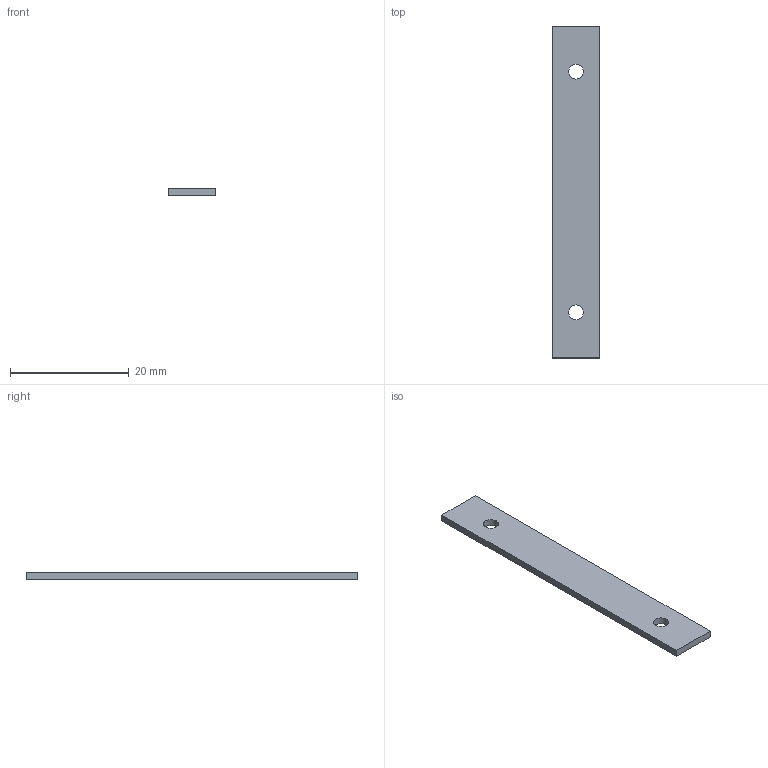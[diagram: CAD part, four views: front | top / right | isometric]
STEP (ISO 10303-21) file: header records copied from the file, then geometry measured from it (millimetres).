
FILE_DESCRIPTION(('Open CASCADE Model'),'2;1');
FILE_NAME('Open CASCADE Shape Model','2026-10-06T09:51:05',('Author'),( 'Open CASCADE'),'Open CASCADE STEP processor 7.9','Open CASCADE 7.9' ,'Unknown');
FILE_SCHEMA(('AUTOMOTIVE_DESIGN { 1 0 10303 214 1 1 1 1 }'));
Length unit declared in the file: millimetre
Products named in the file (1): Open CASCADE STEP translator 7.9 2
Bounding box: 8 x 56 x 1.2 mm (x, y, z)
Volume: 525.8 mm3; surface area: 1048.8 mm2
Topology: 1 solids, 1 shells, 8 faces, 18 edges, 12 vertices
Faces by surface type: plane 6, cylinder 2
Full cylindrical faces by diameter (mm): 2.5 x2
Entity records: 478 total; most frequent: DIRECTION 76, CARTESIAN_POINT 75, LINE 46, VECTOR 46, ORIENTED_EDGE 36, PCURVE 36, DEFINITIONAL_REPRESENTATION 36, EDGE_CURVE 18
